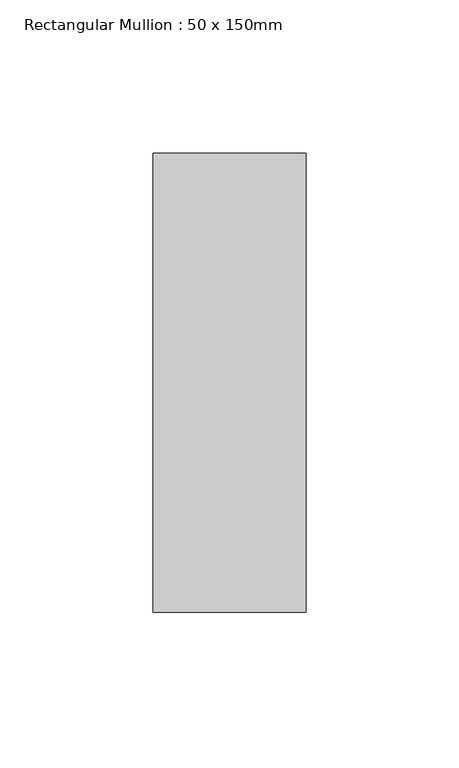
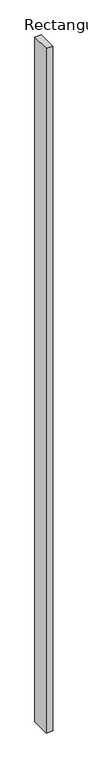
"""IFC4 building model written with IfcOpenShell, lengths in millimetres: member geometry, Rectangular Mullion : 50 x 150mm."""

import ifcopenshell
import ifcopenshell.guid

model = None  # the IFC model being written
_history = None  # IfcOwnerHistory: only IFC2X3 demands one
_inside = {}  # id of a spatial element -> (the spatial element, [elements in it])
_under = {}  # id of a project, library or spatial element -> (it, [spatial elements below it])
_declared = {}  # id of a project -> (the project, [libraries it declares])
_typed = {}  # id of a type object -> (the type object, [elements of that type])
_made_of = {}  # id of a material, layer set ... -> (it, [elements and type objects made of it])


def new_model(schema):
    """Start an empty IFC model of exactly this schema.

    Asked for "IFC4X3", IfcOpenShell would pick the latest addendum, in which some entities
    have other attributes; the version numbers below select the first issue.
    IFC2X3 requires an IfcOwnerHistory on every rooted entity: one is made here for all.
    """
    global model, _history
    if schema == "IFC4X3":
        model = ifcopenshell.file(schema_version=(4, 3, 0, 0))
    else:
        model = ifcopenshell.file(schema=schema)
    _inside.clear()
    _under.clear()
    _declared.clear()
    _typed.clear()
    _made_of.clear()
    _history = None
    if model.schema == "IFC2X3":
        org = make("IfcOrganization", Name="unknown")
        user = make(
            "IfcPersonAndOrganization",
            ThePerson=make("IfcPerson", FamilyName="unknown"),
            TheOrganization=org,
        )
        app = make(
            "IfcApplication",
            ApplicationDeveloper=org,
            Version="unknown",
            ApplicationFullName="unknown",
            ApplicationIdentifier="unknown",
        )
        _history = make(
            "IfcOwnerHistory",
            OwningUser=user,
            OwningApplication=app,
            ChangeAction="ADDED",
            CreationDate=0,
        )
    return model


def make(cls, **values):
    """One entity of the class cls with the attributes given. An attribute that is None is left unset."""
    return model.create_entity(
        cls, **{name: value for name, value in values.items() if value is not None}
    )


def rooted(cls, **values):
    """An entity with a GlobalId (a new one), such as an element, a storey or a relation."""
    return make(cls, GlobalId=ifcopenshell.guid.new(), OwnerHistory=_history, **values)


def si_unit(unit_type, name, prefix=None):
    """IfcSIUnit, for example si_unit("LENGTHUNIT", "METRE", prefix="MILLI")."""
    return make("IfcSIUnit", UnitType=unit_type, Prefix=prefix, Name=name)


def assignment(units):
    """IfcUnitAssignment: the units of a project."""
    return None if units is None else make("IfcUnitAssignment", Units=units)


def point(xyz):
    """IfcCartesianPoint."""
    return None if xyz is None else make("IfcCartesianPoint", Coordinates=xyz)


def direction(xyz):
    """IfcDirection."""
    return None if xyz is None else make("IfcDirection", DirectionRatios=xyz)


def frame(location, z_axis=None, x_axis=None):
    """IfcAxis2Placement3D, a coordinate frame: its origin and axes. An axis left out is left unset."""
    return make(
        "IfcAxis2Placement3D",
        Location=point(location),
        Axis=direction(z_axis),
        RefDirection=direction(x_axis),
    )


def origin():
    """The frame at (0, 0, 0) with its axes left unset."""
    return frame((0.0, 0.0, 0.0))


def place(relative_to, where):
    """IfcLocalPlacement: puts the frame where relative to a parent placement (None: the world)."""
    return make(
        "IfcLocalPlacement", PlacementRelTo=relative_to, RelativePlacement=where
    )


def context(
    kind, dimensions, precision=None, world=None, true_north=None, identifier=None
):
    """IfcGeometricRepresentationContext, for example the 3D "Model" context."""
    return make(
        "IfcGeometricRepresentationContext",
        ContextIdentifier=identifier,
        ContextType=kind,
        CoordinateSpaceDimension=dimensions,
        Precision=precision,
        WorldCoordinateSystem=world,
        TrueNorth=true_north,
    )


def project(units=None, contexts=None):
    """IfcProject with its units and contexts."""
    return rooted(
        "IfcProject",
        Name="project",
        RepresentationContexts=contexts,
        UnitsInContext=assignment(units),
    )


def spatial(cls, under=None, at=None, **own):
    """A site, building, storey or space (cls), placed at a placement, below another one or the project."""
    s = rooted(cls, ObjectPlacement=at, **own)
    if under is not None:
        _under.setdefault(under.id(), (under, []))[1].append(s)
    return s


def polyline(points):
    """IfcPolyline through the points."""
    return make("IfcPolyline", Points=[point(p) for p in points])


def outline(outer, holes=None, kind="AREA"):
    """IfcArbitraryClosedProfileDef: a profile drawn as a closed curve; with holes, ...WithVoids."""
    if holes is None:
        return make("IfcArbitraryClosedProfileDef", ProfileType=kind, OuterCurve=outer)
    return make(
        "IfcArbitraryProfileDefWithVoids",
        ProfileType=kind,
        OuterCurve=outer,
        InnerCurves=holes,
    )


def extrude(swept, where, along, depth):
    """IfcExtrudedAreaSolid: the profile swept, set in the frame where, extruded along a direction by depth."""
    return make(
        "IfcExtrudedAreaSolid",
        SweptArea=swept,
        Position=where,
        ExtrudedDirection=direction(along),
        Depth=depth,
    )


def shape(context_of_items, identifier, shape_type, items):
    """IfcShapeRepresentation: the items that make up one representation, for example the "Body"."""
    return make(
        "IfcShapeRepresentation",
        ContextOfItems=context_of_items,
        RepresentationIdentifier=identifier,
        RepresentationType=shape_type,
        Items=items,
    )


def source(mapping_origin, context_of_items, identifier, shape_type, items):
    """IfcRepresentationMap: a shape defined once, which mapped items show again and again."""
    return make(
        "IfcRepresentationMap",
        MappingOrigin=mapping_origin,
        MappedRepresentation=shape(context_of_items, identifier, shape_type, items),
    )


def transform(
    local_origin,
    x_axis=None,
    y_axis=None,
    z_axis=None,
    scale=None,
    scale2=None,
    scale3=None,
    uniform=True,
):
    """IfcCartesianTransformationOperator3D, or its non-uniform kind. x_axis, y_axis, z_axis: its Axis1, 2, 3."""
    if uniform:
        return make(
            "IfcCartesianTransformationOperator3D",
            Axis1=direction(x_axis),
            Axis2=direction(y_axis),
            LocalOrigin=point(local_origin),
            Scale=scale,
            Axis3=direction(z_axis),
        )
    return make(
        "IfcCartesianTransformationOperator3DnonUniform",
        Axis1=direction(x_axis),
        Axis2=direction(y_axis),
        LocalOrigin=point(local_origin),
        Scale=scale,
        Axis3=direction(z_axis),
        Scale2=scale2,
        Scale3=scale3,
    )


def mapped(mapping_source, mapping_target):
    """IfcMappedItem: shows the shape of a source again, moved by a transform."""
    return make(
        "IfcMappedItem", MappingSource=mapping_source, MappingTarget=mapping_target
    )


def made_of(thing, what):
    """Note that an element or type object is made of a material, layer set ...; save() writes the relation."""
    if what is not None:
        _made_of.setdefault(what.id(), (what, []))[1].append(thing)
    return thing


def element(
    cls,
    number,
    at=None,
    inside=None,
    cuts=None,
    type_object=None,
    material=None,
    context=None,
    identifier="Body",
    shape_type=None,
    held_by="IfcProductDefinitionShape",
    body=None,
    shapes=None,
    **own,
):
    """One element of the class cls, such as IfcWall. Its Tag is "e" and its number.

    at: its placement. inside: the storey or other place that contains it. cuts: it is an
    opening in that element (IfcRelVoidsElement). A single representation is given by context,
    identifier, shape_type and body (its items); several are given by shapes. held_by: the class
    of the entity that holds the representations. save() writes the other relations.
    """
    e = rooted(cls, Tag="e%d" % number, ObjectPlacement=at, **own)
    if body is not None:
        shapes = [shape(context, identifier, shape_type, body)]
    if shapes is not None:
        e.Representation = make(held_by, Representations=shapes)
    if inside is not None:
        _inside.setdefault(inside.id(), (inside, []))[1].append(e)
    if cuts is not None:
        rooted(
            "IfcRelVoidsElement", RelatingBuildingElement=cuts, RelatedOpeningElement=e
        )
    if type_object is not None:
        _typed.setdefault(type_object.id(), (type_object, []))[1].append(e)
    return made_of(e, material)


def aggregate(whole, parts):
    """IfcRelAggregates: a whole, such as a stair, and the parts it consists of."""
    return rooted("IfcRelAggregates", RelatingObject=whole, RelatedObjects=parts)


def save(model, path):
    """Write the relations noted so far, then the file.

    IfcRelAggregates (storeys below a building ...), IfcRelContainedInSpatialStructure (elements
    in a storey), IfcRelDefinesByType, IfcRelAssociatesMaterial and IfcRelDeclares: one each for
    every whole, place, type object, material and project.
    """
    for whole, parts in _under.values():
        aggregate(whole, parts)
    for where, things in _inside.values():
        rooted(
            "IfcRelContainedInSpatialStructure",
            RelatedElements=things,
            RelatingStructure=where,
        )
    for kind, things in _typed.values():
        rooted("IfcRelDefinesByType", RelatedObjects=things, RelatingType=kind)
    for what, things in _made_of.values():
        rooted("IfcRelAssociatesMaterial", RelatedObjects=things, RelatingMaterial=what)
    for by, libraries in _declared.values():
        rooted("IfcRelDeclares", RelatingContext=by, RelatedDefinitions=libraries)
    model.write(path)


def rectangular_mullion_50_x_150mm_35afcab1(model_context):
    return source(origin(), model_context, "Body", "SweptSolid", [
        extrude(outline(polyline([(0.0, 75.0), (0.0, -75.0), (-50.0, -75.0), (-50.0, 75.0), (0.0, 75.0)])), frame((0.0, 0.0, -5588.0578156), z_axis=(0.0, 0.0, 1.0), x_axis=(1.0, 0.0, 0.0)), (0.0, 0.0, 1.0), 5588.0578156),
    ])


if __name__ == "__main__":
    model = new_model("IFC4")
    model_context = context("Model", 3, world=origin())
    ifc_project = project(units=[si_unit("LENGTHUNIT", "METRE", prefix="MILLI")], contexts=[model_context])
    site = spatial("IfcSite", under=ifc_project)
    building = spatial("IfcBuilding", under=site)
    placement = place(None, origin())
    rectangular_mullion_50_x_150mm_shape = rectangular_mullion_50_x_150mm_35afcab1(model_context)
    element("IfcMember", 1, ObjectType="Rectangular Mullion : 50 x 150mm", at=placement, inside=building, context=model_context, shape_type="MappedRepresentation", body=[
        mapped(rectangular_mullion_50_x_150mm_shape, transform((0.0, 0.0, 0.0), x_axis=(1.0, 0.0, 0.0), y_axis=(0.0, 1.0, 0.0), z_axis=(0.0, 0.0, 1.0))),
    ])
    save(model, "model.ifc")
